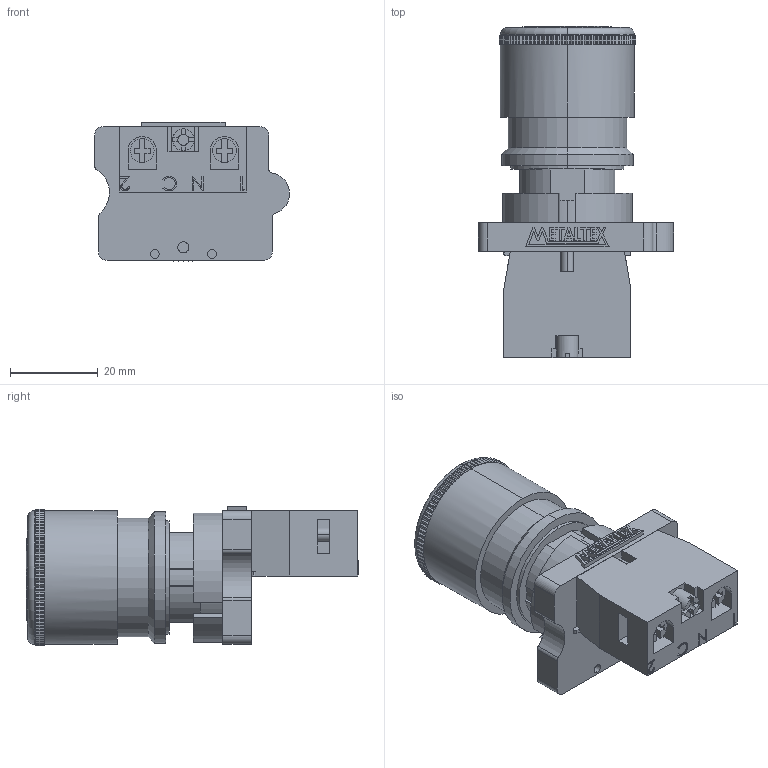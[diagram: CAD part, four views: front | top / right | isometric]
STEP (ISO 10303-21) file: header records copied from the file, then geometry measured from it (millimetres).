
FILE_DESCRIPTION (( 'STEP AP203' ), '1' );
FILE_NAME ('P20BXR-R-1B.STEP', '2018-01-17T14:01:08', ( '' ), ( '' ), 'SwSTEP 2.0', 'SolidWorks 2012', '' );
FILE_SCHEMA (( 'CONFIG_CONTROL_DESIGN' ));
Length unit declared in the file: millimetre
Products named in the file (4): P20BXR; M20-1B; METALTEX 18,98; P20BXR-R-1B
Assembly tree (3 placements, depth 2):
  P20BXR-R-1B
    P20BXR
    M20-1B
    METALTEX 18,98
Bounding box: 44.44 x 75.65 x 31.8 mm (x, y, z)
Volume: 45768.3 mm3; surface area: 13022.2 mm2
Topology: 9 solids, 9 shells, 731 faces, 1786 edges, 1185 vertices
Faces by surface type: plane 628, cylinder 78, bspline 15, torus 6, cone 2, sphere 2
Entity records: 22723 total; most frequent: CARTESIAN_POINT 4723, DIRECTION 3607, ORIENTED_EDGE 3572, EDGE_CURVE 1786, VECTOR 1349, LINE 1349, VERTEX_POINT 1185, AXIS2_PLACEMENT_3D 1129
